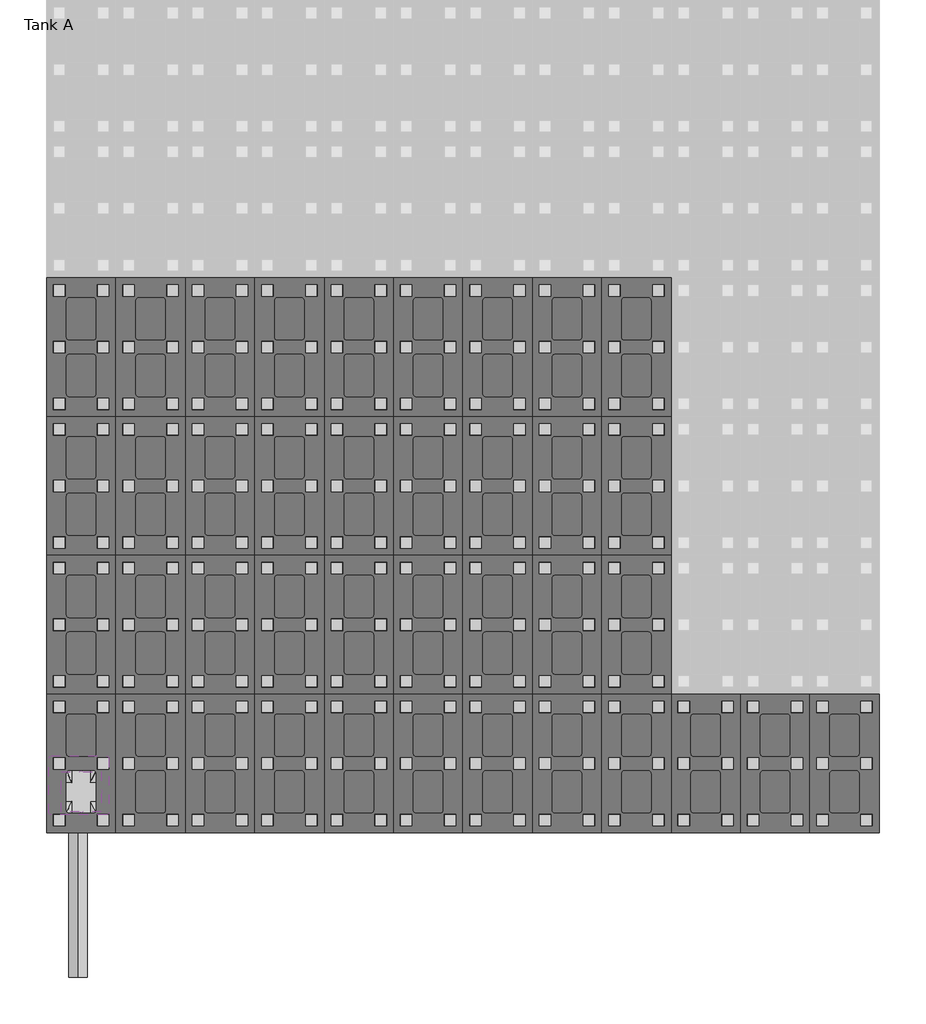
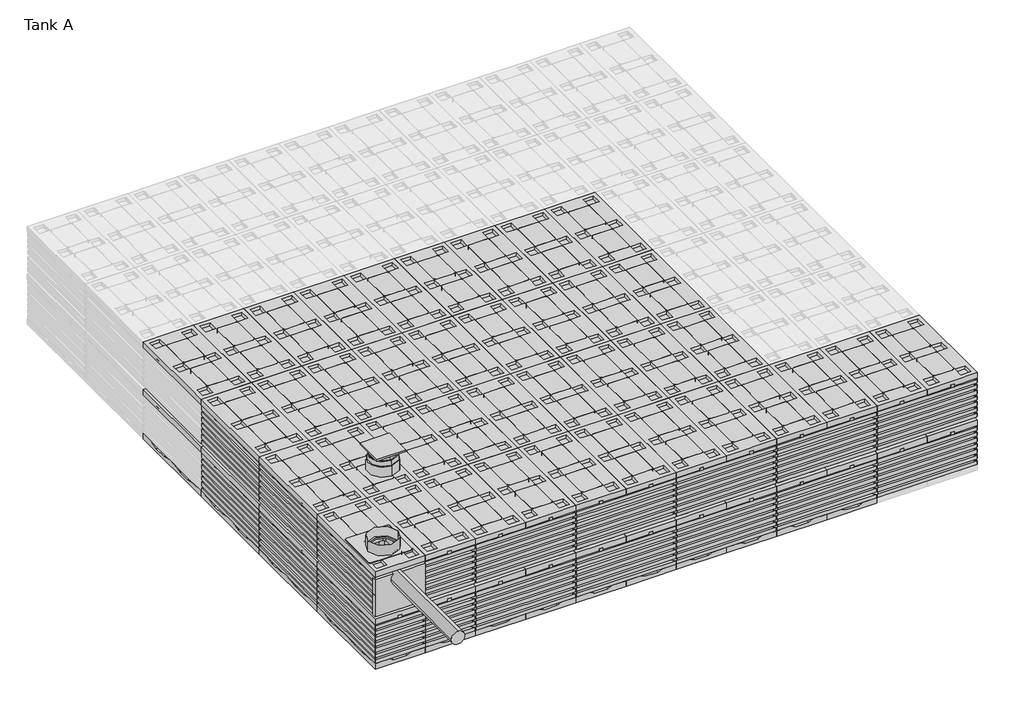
# One storey, part 1 of 6: 138 unitary equipment elements, 1 pipe fitting, 1 pipe segment.
"""IFC4 building model written with IfcOpenShell, lengths in millimetres."""

from ifc_helpers import new_model, si_unit, point, frame, frame_2d, origin, place, context, project, spatial, circle_curve, trimmed, segment, composite_curve, outline, extrude, transform, mapped, element, save
from components import cast_iron_ral9200_6ea693ea, closed_bottom_plate_7d425a97, std_f31acf44, std_d7b6ca00, std_48edb1db, std_0451be0c, std_d7962c01, vertical_tw_6a955b7c

model = new_model("IFC4")

# Units and contexts
model_context = context("Model", 3, world=origin())
ifc_project = project(units=[si_unit("LENGTHUNIT", "METRE", prefix="MILLI")], contexts=[model_context])

# Site, building, storey
site = spatial("IfcSite", under=ifc_project)
building = spatial("IfcBuilding", under=site)
storey = spatial("IfcBuildingStorey", under=building, Name="Tank A", Elevation=-2300.0)

# Pipe fitting
placement = place(None, origin())
cast_iron_ral9200_shape = cast_iron_ral9200_6ea693ea(model_context)
element("IfcPipeFitting", 1, ObjectType="Wavin_PipeFitting_QBicPlusZDoNotUseCover300 : Cast iron, RAL9200", at=placement, inside=storey, context=model_context, shape_type="MappedRepresentation", body=[
    mapped(cast_iron_ral9200_shape, transform((2786.051096, -4084.2220602, 200.0), x_axis=(0.0, 1.0, 0.0), y_axis=(-1.0000000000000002, 0.0, 0.0), z_axis=(0.0, 0.0, 1.0000000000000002))),
])

# Pipe segment
element("IfcPipeSegment", 2, ObjectType="Generic", at=placement, inside=storey, context=model_context, shape_type="SweptSolid", body=[
    extrude(outline(composite_curve([segment(trimmed(circle_curve(frame_2d((-1236.5, 2756.051096)), 80.0), [point((-1236.5, 2676.051096))], [point((-1316.5, 2756.051096))], False, "CARTESIAN"), True, "CONTINUOUS"), segment(trimmed(circle_curve(frame_2d((-1236.5, 2756.051096)), 80.0), [point((-1316.5, 2756.051096))], [point((-1236.5, 2836.051096))], False, "CARTESIAN"), True, "CONTINUOUS"), segment(trimmed(circle_curve(frame_2d((-1236.5, 2756.051096)), 80.0), [point((-1236.5, 2836.051096))], [point((-1156.5, 2756.051096))], False, "CARTESIAN"), True, "CONTINUOUS"), segment(trimmed(circle_curve(frame_2d((-1236.5, 2756.051096)), 80.0), [point((-1156.5, 2756.051096))], [point((-1236.5, 2676.051096))], False, "CARTESIAN"), True, "CONTINUOUS")], self_intersect=False)), frame((0.0, -5689.2220602, 0.0), z_axis=(0.0, 1.0, 0.0), x_axis=(0.0, 0.0, 1.0)), (0.0, 0.0, 1.0), 1300.0),
])

# Unitary equipment
closed_bottom_plate_shape = closed_bottom_plate_7d425a97(model_context)
element("IfcUnitaryEquipment", 3, ObjectType="Wavin_MechanicalEquipment_QBicPlusZDoNotUseBottomPlate : Open bottom plate", at=placement, inside=storey, context=model_context, shape_type="MappedRepresentation", body=[
    mapped(closed_bottom_plate_shape, transform((8486.051096, -4439.2220602, -2230.0), x_axis=(0.0, 1.0, 0.0), y_axis=(-1.0000000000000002, 0.0, 0.0), z_axis=(0.0, 0.0, 1.0000000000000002))),
])
element("IfcUnitaryEquipment", 4, ObjectType="Wavin_MechanicalEquipment_QBicPlusZDoNotUseBottomPlate : Open bottom plate", at=placement, inside=storey, context=model_context, shape_type="MappedRepresentation", body=[
    mapped(closed_bottom_plate_shape, transform((7886.051096, -4439.2220602, -2230.0), x_axis=(0.0, 1.0, 0.0), y_axis=(-1.0000000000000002, 0.0, 0.0), z_axis=(0.0, 0.0, 1.0000000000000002))),
])
element("IfcUnitaryEquipment", 5, ObjectType="Wavin_MechanicalEquipment_QBicPlusZDoNotUseBottomPlate : Open bottom plate", at=placement, inside=storey, context=model_context, shape_type="MappedRepresentation", body=[
    mapped(closed_bottom_plate_shape, transform((7286.051096, -4439.2220602, -2230.0), x_axis=(0.0, 1.0, 0.0), y_axis=(-1.0000000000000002, 0.0, 0.0), z_axis=(0.0, 0.0, 1.0000000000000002))),
])
element("IfcUnitaryEquipment", 6, ObjectType="Wavin_MechanicalEquipment_QBicPlusZDoNotUseBottomPlate : Open bottom plate", at=placement, inside=storey, context=model_context, shape_type="MappedRepresentation", body=[
    mapped(closed_bottom_plate_shape, transform((6686.051096, -4439.2220602, -2230.0), x_axis=(0.0, 1.0, 0.0), y_axis=(-1.0000000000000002, 0.0, 0.0), z_axis=(0.0, 0.0, 1.0000000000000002))),
])
element("IfcUnitaryEquipment", 7, ObjectType="Wavin_MechanicalEquipment_QBicPlusZDoNotUseBottomPlate : Open bottom plate", at=placement, inside=storey, context=model_context, shape_type="MappedRepresentation", body=[
    mapped(closed_bottom_plate_shape, transform((6086.051096, -4439.2220602, -2230.0), x_axis=(0.0, 1.0, 0.0), y_axis=(-1.0000000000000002, 0.0, 0.0), z_axis=(0.0, 0.0, 1.0000000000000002))),
])
element("IfcUnitaryEquipment", 8, ObjectType="Wavin_MechanicalEquipment_QBicPlusZDoNotUseBottomPlate : Open bottom plate", at=placement, inside=storey, context=model_context, shape_type="MappedRepresentation", body=[
    mapped(closed_bottom_plate_shape, transform((5486.051096, -4439.2220602, -2230.0), x_axis=(0.0, 1.0, 0.0), y_axis=(-1.0000000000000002, 0.0, 0.0), z_axis=(0.0, 0.0, 1.0000000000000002))),
])
element("IfcUnitaryEquipment", 9, ObjectType="Wavin_MechanicalEquipment_QBicPlusZDoNotUseBottomPlate : Open bottom plate", at=placement, inside=storey, context=model_context, shape_type="MappedRepresentation", body=[
    mapped(closed_bottom_plate_shape, transform((4886.051096, -4439.2220602, -2230.0), x_axis=(0.0, 1.0, 0.0), y_axis=(-1.0000000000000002, 0.0, 0.0), z_axis=(0.0, 0.0, 1.0000000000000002))),
])
element("IfcUnitaryEquipment", 10, ObjectType="Wavin_MechanicalEquipment_QBicPlusZDoNotUseBottomPlate : Open bottom plate", at=placement, inside=storey, context=model_context, shape_type="MappedRepresentation", body=[
    mapped(closed_bottom_plate_shape, transform((4286.051096, -4439.2220602, -2230.0), x_axis=(0.0, 1.0, 0.0), y_axis=(-1.0000000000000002, 0.0, 0.0), z_axis=(0.0, 0.0, 1.0000000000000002))),
])
element("IfcUnitaryEquipment", 11, ObjectType="Wavin_MechanicalEquipment_QBicPlusZDoNotUseBottomPlate : Open bottom plate", at=placement, inside=storey, context=model_context, shape_type="MappedRepresentation", body=[
    mapped(closed_bottom_plate_shape, transform((3686.051096, -4439.2220602, -2230.0), x_axis=(0.0, 1.0, 0.0), y_axis=(-1.0000000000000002, 0.0, 0.0), z_axis=(0.0, 0.0, 1.0000000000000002))),
])
element("IfcUnitaryEquipment", 12, ObjectType="Wavin_MechanicalEquipment_QBicPlusZDoNotUseBottomPlate : Open bottom plate", at=placement, inside=storey, context=model_context, shape_type="MappedRepresentation", body=[
    mapped(closed_bottom_plate_shape, transform((7886.051096, -3239.2220602, -2230.0), x_axis=(0.0, 1.0, 0.0), y_axis=(-1.0000000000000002, 0.0, 0.0), z_axis=(0.0, 0.0, 1.0000000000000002))),
])
element("IfcUnitaryEquipment", 13, ObjectType="Wavin_MechanicalEquipment_QBicPlusZDoNotUseBottomPlate : Open bottom plate", at=placement, inside=storey, context=model_context, shape_type="MappedRepresentation", body=[
    mapped(closed_bottom_plate_shape, transform((7886.051096, -2039.2220602, -2230.0), x_axis=(0.0, 1.0, 0.0), y_axis=(-1.0000000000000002, 0.0, 0.0), z_axis=(0.0, 0.0, 1.0000000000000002))),
])
element("IfcUnitaryEquipment", 14, ObjectType="Wavin_MechanicalEquipment_QBicPlusZDoNotUseBottomPlate : Open bottom plate", at=placement, inside=storey, context=model_context, shape_type="MappedRepresentation", body=[
    mapped(closed_bottom_plate_shape, transform((7886.051096, -839.2220602, -2230.0), x_axis=(0.0, 1.0, 0.0), y_axis=(-1.0000000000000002, 0.0, 0.0), z_axis=(0.0, 0.0, 1.0000000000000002))),
])
element("IfcUnitaryEquipment", 15, ObjectType="Wavin_MechanicalEquipment_QBicPlusZDoNotUseBottomPlate : Open bottom plate", at=placement, inside=storey, context=model_context, shape_type="MappedRepresentation", body=[
    mapped(closed_bottom_plate_shape, transform((7286.051096, -3239.2220602, -2230.0), x_axis=(0.0, 1.0, 0.0), y_axis=(-1.0000000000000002, 0.0, 0.0), z_axis=(0.0, 0.0, 1.0000000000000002))),
])
element("IfcUnitaryEquipment", 16, ObjectType="Wavin_MechanicalEquipment_QBicPlusZDoNotUseBottomPlate : Open bottom plate", at=placement, inside=storey, context=model_context, shape_type="MappedRepresentation", body=[
    mapped(closed_bottom_plate_shape, transform((7286.051096, -2039.2220602, -2230.0), x_axis=(0.0, 1.0, 0.0), y_axis=(-1.0000000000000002, 0.0, 0.0), z_axis=(0.0, 0.0, 1.0000000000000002))),
])
element("IfcUnitaryEquipment", 17, ObjectType="Wavin_MechanicalEquipment_QBicPlusZDoNotUseBottomPlate : Open bottom plate", at=placement, inside=storey, context=model_context, shape_type="MappedRepresentation", body=[
    mapped(closed_bottom_plate_shape, transform((7286.051096, -839.2220602, -2230.0), x_axis=(0.0, 1.0, 0.0), y_axis=(-1.0000000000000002, 0.0, 0.0), z_axis=(0.0, 0.0, 1.0000000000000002))),
])
element("IfcUnitaryEquipment", 18, ObjectType="Wavin_MechanicalEquipment_QBicPlusZDoNotUseBottomPlate : Open bottom plate", at=placement, inside=storey, context=model_context, shape_type="MappedRepresentation", body=[
    mapped(closed_bottom_plate_shape, transform((6686.051096, -3239.2220602, -2230.0), x_axis=(0.0, 1.0, 0.0), y_axis=(-1.0000000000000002, 0.0, 0.0), z_axis=(0.0, 0.0, 1.0000000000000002))),
])
element("IfcUnitaryEquipment", 19, ObjectType="Wavin_MechanicalEquipment_QBicPlusZDoNotUseBottomPlate : Open bottom plate", at=placement, inside=storey, context=model_context, shape_type="MappedRepresentation", body=[
    mapped(closed_bottom_plate_shape, transform((6686.051096, -2039.2220602, -2230.0), x_axis=(0.0, 1.0, 0.0), y_axis=(-1.0000000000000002, 0.0, 0.0), z_axis=(0.0, 0.0, 1.0000000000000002))),
])
element("IfcUnitaryEquipment", 20, ObjectType="Wavin_MechanicalEquipment_QBicPlusZDoNotUseBottomPlate : Open bottom plate", at=placement, inside=storey, context=model_context, shape_type="MappedRepresentation", body=[
    mapped(closed_bottom_plate_shape, transform((6686.051096, -839.2220602, -2230.0), x_axis=(0.0, 1.0, 0.0), y_axis=(-1.0000000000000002, 0.0, 0.0), z_axis=(0.0, 0.0, 1.0000000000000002))),
])
element("IfcUnitaryEquipment", 21, ObjectType="Wavin_MechanicalEquipment_QBicPlusZDoNotUseBottomPlate : Open bottom plate", at=placement, inside=storey, context=model_context, shape_type="MappedRepresentation", body=[
    mapped(closed_bottom_plate_shape, transform((6086.051096, -3239.2220602, -2230.0), x_axis=(0.0, 1.0, 0.0), y_axis=(-1.0000000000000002, 0.0, 0.0), z_axis=(0.0, 0.0, 1.0000000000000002))),
])
element("IfcUnitaryEquipment", 22, ObjectType="Wavin_MechanicalEquipment_QBicPlusZDoNotUseBottomPlate : Open bottom plate", at=placement, inside=storey, context=model_context, shape_type="MappedRepresentation", body=[
    mapped(closed_bottom_plate_shape, transform((6086.051096, -2039.2220602, -2230.0), x_axis=(0.0, 1.0, 0.0), y_axis=(-1.0000000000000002, 0.0, 0.0), z_axis=(0.0, 0.0, 1.0000000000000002))),
])
element("IfcUnitaryEquipment", 23, ObjectType="Wavin_MechanicalEquipment_QBicPlusZDoNotUseBottomPlate : Open bottom plate", at=placement, inside=storey, context=model_context, shape_type="MappedRepresentation", body=[
    mapped(closed_bottom_plate_shape, transform((6086.051096, -839.2220602, -2230.0), x_axis=(0.0, 1.0, 0.0), y_axis=(-1.0000000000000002, 0.0, 0.0), z_axis=(0.0, 0.0, 1.0000000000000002))),
])
element("IfcUnitaryEquipment", 24, ObjectType="Wavin_MechanicalEquipment_QBicPlusZDoNotUseBottomPlate : Open bottom plate", at=placement, inside=storey, context=model_context, shape_type="MappedRepresentation", body=[
    mapped(closed_bottom_plate_shape, transform((5486.051096, -3239.2220602, -2230.0), x_axis=(0.0, 1.0, 0.0), y_axis=(-1.0000000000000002, 0.0, 0.0), z_axis=(0.0, 0.0, 1.0000000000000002))),
])
element("IfcUnitaryEquipment", 25, ObjectType="Wavin_MechanicalEquipment_QBicPlusZDoNotUseBottomPlate : Open bottom plate", at=placement, inside=storey, context=model_context, shape_type="MappedRepresentation", body=[
    mapped(closed_bottom_plate_shape, transform((5486.051096, -2039.2220602, -2230.0), x_axis=(0.0, 1.0, 0.0), y_axis=(-1.0000000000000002, 0.0, 0.0), z_axis=(0.0, 0.0, 1.0000000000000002))),
])
element("IfcUnitaryEquipment", 26, ObjectType="Wavin_MechanicalEquipment_QBicPlusZDoNotUseBottomPlate : Open bottom plate", at=placement, inside=storey, context=model_context, shape_type="MappedRepresentation", body=[
    mapped(closed_bottom_plate_shape, transform((5486.051096, -839.2220602, -2230.0), x_axis=(0.0, 1.0, 0.0), y_axis=(-1.0000000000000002, 0.0, 0.0), z_axis=(0.0, 0.0, 1.0000000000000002))),
])
element("IfcUnitaryEquipment", 27, ObjectType="Wavin_MechanicalEquipment_QBicPlusZDoNotUseBottomPlate : Open bottom plate", at=placement, inside=storey, context=model_context, shape_type="MappedRepresentation", body=[
    mapped(closed_bottom_plate_shape, transform((4886.051096, -3239.2220602, -2230.0), x_axis=(0.0, 1.0, 0.0), y_axis=(-1.0000000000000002, 0.0, 0.0), z_axis=(0.0, 0.0, 1.0000000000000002))),
])
element("IfcUnitaryEquipment", 28, ObjectType="Wavin_MechanicalEquipment_QBicPlusZDoNotUseBottomPlate : Open bottom plate", at=placement, inside=storey, context=model_context, shape_type="MappedRepresentation", body=[
    mapped(closed_bottom_plate_shape, transform((4886.051096, -2039.2220602, -2230.0), x_axis=(0.0, 1.0, 0.0), y_axis=(-1.0000000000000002, 0.0, 0.0), z_axis=(0.0, 0.0, 1.0000000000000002))),
])
element("IfcUnitaryEquipment", 29, ObjectType="Wavin_MechanicalEquipment_QBicPlusZDoNotUseBottomPlate : Open bottom plate", at=placement, inside=storey, context=model_context, shape_type="MappedRepresentation", body=[
    mapped(closed_bottom_plate_shape, transform((4886.051096, -839.2220602, -2230.0), x_axis=(0.0, 1.0, 0.0), y_axis=(-1.0000000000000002, 0.0, 0.0), z_axis=(0.0, 0.0, 1.0000000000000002))),
])
element("IfcUnitaryEquipment", 30, ObjectType="Wavin_MechanicalEquipment_QBicPlusZDoNotUseBottomPlate : Open bottom plate", at=placement, inside=storey, context=model_context, shape_type="MappedRepresentation", body=[
    mapped(closed_bottom_plate_shape, transform((4286.051096, -3239.2220602, -2230.0), x_axis=(0.0, 1.0, 0.0), y_axis=(-1.0000000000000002, 0.0, 0.0), z_axis=(0.0, 0.0, 1.0000000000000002))),
])
element("IfcUnitaryEquipment", 31, ObjectType="Wavin_MechanicalEquipment_QBicPlusZDoNotUseBottomPlate : Open bottom plate", at=placement, inside=storey, context=model_context, shape_type="MappedRepresentation", body=[
    mapped(closed_bottom_plate_shape, transform((4286.051096, -2039.2220602, -2230.0), x_axis=(0.0, 1.0, 0.0), y_axis=(-1.0000000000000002, 0.0, 0.0), z_axis=(0.0, 0.0, 1.0000000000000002))),
])
element("IfcUnitaryEquipment", 32, ObjectType="Wavin_MechanicalEquipment_QBicPlusZDoNotUseBottomPlate : Open bottom plate", at=placement, inside=storey, context=model_context, shape_type="MappedRepresentation", body=[
    mapped(closed_bottom_plate_shape, transform((4286.051096, -839.2220602, -2230.0), x_axis=(0.0, 1.0, 0.0), y_axis=(-1.0000000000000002, 0.0, 0.0), z_axis=(0.0, 0.0, 1.0000000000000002))),
])
element("IfcUnitaryEquipment", 33, ObjectType="Wavin_MechanicalEquipment_QBicPlusZDoNotUseBottomPlate : Open bottom plate", at=placement, inside=storey, context=model_context, shape_type="MappedRepresentation", body=[
    mapped(closed_bottom_plate_shape, transform((3686.051096, -3239.2220602, -2230.0), x_axis=(0.0, 1.0, 0.0), y_axis=(-1.0000000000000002, 0.0, 0.0), z_axis=(0.0, 0.0, 1.0000000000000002))),
])
element("IfcUnitaryEquipment", 34, ObjectType="Wavin_MechanicalEquipment_QBicPlusZDoNotUseBottomPlate : Open bottom plate", at=placement, inside=storey, context=model_context, shape_type="MappedRepresentation", body=[
    mapped(closed_bottom_plate_shape, transform((3686.051096, -2039.2220602, -2230.0), x_axis=(0.0, 1.0, 0.0), y_axis=(-1.0000000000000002, 0.0, 0.0), z_axis=(0.0, 0.0, 1.0000000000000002))),
])
element("IfcUnitaryEquipment", 35, ObjectType="Wavin_MechanicalEquipment_QBicPlusZDoNotUseBottomPlate : Open bottom plate", at=placement, inside=storey, context=model_context, shape_type="MappedRepresentation", body=[
    mapped(closed_bottom_plate_shape, transform((3686.051096, -839.2220602, -2230.0), x_axis=(0.0, 1.0, 0.0), y_axis=(-1.0000000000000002, 0.0, 0.0), z_axis=(0.0, 0.0, 1.0000000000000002))),
])
element("IfcUnitaryEquipment", 36, ObjectType="Wavin_MechanicalEquipment_QBicPlusZDoNotUseBottomPlate : Open bottom plate", at=placement, inside=storey, context=model_context, shape_type="MappedRepresentation", body=[
    mapped(closed_bottom_plate_shape, transform((3086.051096, -3239.2220602, -2230.0), x_axis=(0.0, 1.0, 0.0), y_axis=(-1.0000000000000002, 0.0, 0.0), z_axis=(0.0, 0.0, 1.0000000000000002))),
])
element("IfcUnitaryEquipment", 37, ObjectType="Wavin_MechanicalEquipment_QBicPlusZDoNotUseBottomPlate : Open bottom plate", at=placement, inside=storey, context=model_context, shape_type="MappedRepresentation", body=[
    mapped(closed_bottom_plate_shape, transform((3086.051096, -2039.2220602, -2230.0), x_axis=(0.0, 1.0, 0.0), y_axis=(-1.0000000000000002, 0.0, 0.0), z_axis=(0.0, 0.0, 1.0000000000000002))),
])
element("IfcUnitaryEquipment", 38, ObjectType="Wavin_MechanicalEquipment_QBicPlusZDoNotUseBottomPlate : Open bottom plate", at=placement, inside=storey, context=model_context, shape_type="MappedRepresentation", body=[
    mapped(closed_bottom_plate_shape, transform((3086.051096, -839.2220602, -2230.0), x_axis=(0.0, 1.0, 0.0), y_axis=(-1.0000000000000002, 0.0, 0.0), z_axis=(0.0, 0.0, 1.0000000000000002))),
])
element("IfcUnitaryEquipment", 39, ObjectType="Wavin_MechanicalEquipment_QBicPlusZDoNotUseBottomPlate : Open bottom plate", at=placement, inside=storey, context=model_context, shape_type="MappedRepresentation", body=[
    mapped(closed_bottom_plate_shape, transform((3086.051096, -4439.2220602, -2230.0), x_axis=(0.0, 1.0, 0.0), y_axis=(-1.0000000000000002, 0.0, 0.0), z_axis=(0.0, 0.0, 1.0000000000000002))),
])
std_shape = std_f31acf44(model_context)
element("IfcUnitaryEquipment", 40, ObjectType="Wavin_MechanicalEquipment_QBicPlusZDoNotUseLateralSidePlate : std", at=placement, inside=storey, context=model_context, shape_type="MappedRepresentation", body=[
    mapped(std_shape, transform((6086.051096, -4439.2220602, -2330.0), x_axis=(1.0, 0.0, 0.0), y_axis=(0.0, 1.0, 0.0), z_axis=(0.0, 0.0, 1.0))),
])
element("IfcUnitaryEquipment", 41, ObjectType="Wavin_MechanicalEquipment_QBicPlusZDoNotUseLateralSidePlate : std", at=placement, inside=storey, context=model_context, shape_type="MappedRepresentation", body=[
    mapped(std_shape, transform((6086.051096, -4439.2220602, -1730.0), x_axis=(1.0, 0.0, 0.0), y_axis=(0.0, 1.0, 0.0), z_axis=(0.0, 0.0, 1.0))),
])
element("IfcUnitaryEquipment", 42, ObjectType="Wavin_MechanicalEquipment_QBicPlusZDoNotUseLateralSidePlate : std", at=placement, inside=storey, context=model_context, shape_type="MappedRepresentation", body=[
    mapped(std_shape, transform((4886.051096, -4439.2220602, -2330.0), x_axis=(1.0, 0.0, 0.0), y_axis=(0.0, 1.0, 0.0), z_axis=(0.0, 0.0, 1.0))),
])
element("IfcUnitaryEquipment", 43, ObjectType="Wavin_MechanicalEquipment_QBicPlusZDoNotUseLateralSidePlate : std", at=placement, inside=storey, context=model_context, shape_type="MappedRepresentation", body=[
    mapped(std_shape, transform((4886.051096, -4439.2220602, -1730.0), x_axis=(1.0, 0.0, 0.0), y_axis=(0.0, 1.0, 0.0), z_axis=(0.0, 0.0, 1.0))),
])
element("IfcUnitaryEquipment", 44, ObjectType="Wavin_MechanicalEquipment_QBicPlusZDoNotUseLateralSidePlate : std", at=placement, inside=storey, context=model_context, shape_type="MappedRepresentation", body=[
    mapped(std_shape, transform((3686.051096, -4439.2220602, -2330.0), x_axis=(1.0, 0.0, 0.0), y_axis=(0.0, 1.0, 0.0), z_axis=(0.0, 0.0, 1.0))),
])
element("IfcUnitaryEquipment", 45, ObjectType="Wavin_MechanicalEquipment_QBicPlusZDoNotUseLateralSidePlate : std", at=placement, inside=storey, context=model_context, shape_type="MappedRepresentation", body=[
    mapped(std_shape, transform((3686.051096, -4439.2220602, -1730.0), x_axis=(1.0, 0.0, 0.0), y_axis=(0.0, 1.0, 0.0), z_axis=(0.0, 0.0, 1.0))),
])
element("IfcUnitaryEquipment", 46, ObjectType="Wavin_MechanicalEquipment_QBicPlusZDoNotUseLateralSidePlate : std", at=placement, inside=storey, context=model_context, shape_type="MappedRepresentation", body=[
    mapped(std_shape, transform((9686.051096, -4439.2220602, -2330.0), x_axis=(0.0, 1.0000000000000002, 0.0), y_axis=(-1.0000000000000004, 0.0, 0.0), z_axis=(0.0, 0.0, 1.0000000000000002))),
])
element("IfcUnitaryEquipment", 47, ObjectType="Wavin_MechanicalEquipment_QBicPlusZDoNotUseLateralSidePlate : std", at=placement, inside=storey, context=model_context, shape_type="MappedRepresentation", body=[
    mapped(std_shape, transform((9686.051096, -4439.2220602, -1730.0), x_axis=(0.0, 1.0000000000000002, 0.0), y_axis=(-1.0000000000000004, 0.0, 0.0), z_axis=(0.0, 0.0, 1.0000000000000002))),
])
element("IfcUnitaryEquipment", 48, ObjectType="Wavin_MechanicalEquipment_QBicPlusZDoNotUseLateralSidePlate : std", at=placement, inside=storey, context=model_context, shape_type="MappedRepresentation", body=[
    mapped(std_shape, transform((2486.051096, -839.2220602, -2330.0), x_axis=(0.0, -1.0000000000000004, 0.0), y_axis=(1.0000000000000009, 0.0, 0.0), z_axis=(0.0, 0.0, 1.0000000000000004))),
])
element("IfcUnitaryEquipment", 49, ObjectType="Wavin_MechanicalEquipment_QBicPlusZDoNotUseLateralSidePlate : std", at=placement, inside=storey, context=model_context, shape_type="MappedRepresentation", body=[
    mapped(std_shape, transform((2486.051096, -839.2220602, -1730.0), x_axis=(0.0, -1.0000000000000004, 0.0), y_axis=(1.0000000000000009, 0.0, 0.0), z_axis=(0.0, 0.0, 1.0000000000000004))),
])
element("IfcUnitaryEquipment", 50, ObjectType="Wavin_MechanicalEquipment_QBicPlusZDoNotUseLateralSidePlate : std", at=placement, inside=storey, context=model_context, shape_type="MappedRepresentation", body=[
    mapped(std_shape, transform((7286.051096, -4439.2220602, -2330.0), x_axis=(1.0, 0.0, 0.0), y_axis=(0.0, 1.0, 0.0), z_axis=(0.0, 0.0, 1.0))),
])
element("IfcUnitaryEquipment", 51, ObjectType="Wavin_MechanicalEquipment_QBicPlusZDoNotUseLateralSidePlate : std", at=placement, inside=storey, context=model_context, shape_type="MappedRepresentation", body=[
    mapped(std_shape, transform((7286.051096, -4439.2220602, -1730.0), x_axis=(1.0, 0.0, 0.0), y_axis=(0.0, 1.0, 0.0), z_axis=(0.0, 0.0, 1.0))),
])
element("IfcUnitaryEquipment", 52, ObjectType="Wavin_MechanicalEquipment_QBicPlusZDoNotUseLateralSidePlate : std", at=placement, inside=storey, context=model_context, shape_type="MappedRepresentation", body=[
    mapped(std_shape, transform((8486.051096, -4439.2220602, -2330.0), x_axis=(1.0, 0.0, 0.0), y_axis=(0.0, 1.0, 0.0), z_axis=(0.0, 0.0, 1.0))),
])
element("IfcUnitaryEquipment", 53, ObjectType="Wavin_MechanicalEquipment_QBicPlusZDoNotUseLateralSidePlate : std", at=placement, inside=storey, context=model_context, shape_type="MappedRepresentation", body=[
    mapped(std_shape, transform((8486.051096, -4439.2220602, -1730.0), x_axis=(1.0, 0.0, 0.0), y_axis=(0.0, 1.0, 0.0), z_axis=(0.0, 0.0, 1.0))),
])
element("IfcUnitaryEquipment", 54, ObjectType="Wavin_MechanicalEquipment_QBicPlusZDoNotUseLateralSidePlate : std", at=placement, inside=storey, context=model_context, shape_type="MappedRepresentation", body=[
    mapped(std_shape, transform((2486.051096, -2039.2220602, -2330.0), x_axis=(0.0, -1.0000000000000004, 0.0), y_axis=(1.0000000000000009, 0.0, 0.0), z_axis=(0.0, 0.0, 1.0000000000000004))),
])
element("IfcUnitaryEquipment", 55, ObjectType="Wavin_MechanicalEquipment_QBicPlusZDoNotUseLateralSidePlate : std", at=placement, inside=storey, context=model_context, shape_type="MappedRepresentation", body=[
    mapped(std_shape, transform((2486.051096, -2039.2220602, -1730.0), x_axis=(0.0, -1.0000000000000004, 0.0), y_axis=(1.0000000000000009, 0.0, 0.0), z_axis=(0.0, 0.0, 1.0000000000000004))),
])
element("IfcUnitaryEquipment", 56, ObjectType="Wavin_MechanicalEquipment_QBicPlusZDoNotUseLateralSidePlate : std", at=placement, inside=storey, context=model_context, shape_type="MappedRepresentation", body=[
    mapped(std_shape, transform((2486.051096, -3239.2220602, -2330.0), x_axis=(0.0, -1.0000000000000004, 0.0), y_axis=(1.0000000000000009, 0.0, 0.0), z_axis=(0.0, 0.0, 1.0000000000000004))),
])
element("IfcUnitaryEquipment", 57, ObjectType="Wavin_MechanicalEquipment_QBicPlusZDoNotUseLateralSidePlate : std", at=placement, inside=storey, context=model_context, shape_type="MappedRepresentation", body=[
    mapped(std_shape, transform((2486.051096, -3239.2220602, -1730.0), x_axis=(0.0, -1.0000000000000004, 0.0), y_axis=(1.0000000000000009, 0.0, 0.0), z_axis=(0.0, 0.0, 1.0000000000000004))),
])
std_2_shape = std_d7b6ca00(model_context)
element("IfcUnitaryEquipment", 58, ObjectType="Wavin_MechanicalEquipment_QBicPlusZDoNotUseConnectionPlate : std", at=placement, inside=storey, context=model_context, shape_type="MappedRepresentation", body=[
    mapped(std_2_shape, transform((2486.051096, -4439.2220602, -1730.0), x_axis=(1.0, 0.0, 0.0), y_axis=(0.0, 1.0, 0.0), z_axis=(0.0, 0.0, 1.0))),
])
std_3_shape = std_48edb1db(model_context)
element("IfcUnitaryEquipment", 59, ObjectType="Wavin_MechanicalEquipment_QBicPlusZDoNotUseInfiltrationUnit : std", at=placement, inside=storey, context=model_context, shape_type="MappedRepresentation", body=[
    mapped(std_3_shape, transform((3086.051096, -4439.2220602, -1670.0), x_axis=(0.0, 1.0, 0.0), y_axis=(-1.0000000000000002, 0.0, 0.0), z_axis=(0.0, 0.0, 1.0000000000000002))),
])
element("IfcUnitaryEquipment", 60, ObjectType="Wavin_MechanicalEquipment_QBicPlusZDoNotUseInfiltrationUnit : std", at=placement, inside=storey, context=model_context, shape_type="MappedRepresentation", body=[
    mapped(std_3_shape, transform((3086.051096, -4439.2220602, -2270.0), x_axis=(0.0, 1.0, 0.0), y_axis=(-1.0000000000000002, 0.0, 0.0), z_axis=(0.0, 0.0, 1.0000000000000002))),
])
std_4_shape = std_0451be0c(model_context)
element("IfcUnitaryEquipment", 61, ObjectType="Wavin_MechanicalEquipment_QBicPlusZDoNotUseLateralSidePlate : std", at=placement, inside=storey, context=model_context, shape_type="MappedRepresentation", body=[
    mapped(std_4_shape, transform((3078.051096, -4439.2220602, -1730.0), x_axis=(1.0, 0.0, 0.0), y_axis=(0.0, 1.0, 0.0), z_axis=(0.0, 0.0, 1.0))),
])
element("IfcUnitaryEquipment", 62, ObjectType="Wavin_MechanicalEquipment_QBicPlusZDoNotUseLateralSidePlate : std", at=placement, inside=storey, context=model_context, shape_type="MappedRepresentation", body=[
    mapped(std_4_shape, transform((3078.051096, -4439.2220602, -2330.0), x_axis=(1.0, 0.0, 0.0), y_axis=(0.0, 1.0, 0.0), z_axis=(0.0, 0.0, 1.0))),
])
element("IfcUnitaryEquipment", 63, ObjectType="Wavin_MechanicalEquipment_QBicPlusZDoNotUseLateralSidePlate : std", at=placement, inside=storey, context=model_context, shape_type="MappedRepresentation", body=[
    mapped(std_4_shape, transform((2486.051096, -4439.2220602, -2330.0), x_axis=(1.0, 0.0, 0.0), y_axis=(0.0, 1.0, 0.0), z_axis=(0.0, 0.0, 1.0))),
])
std_5_shape = std_d7962c01(model_context)
element("IfcUnitaryEquipment", 64, ObjectType="Wavin_MechanicalEquipment_QBicPlusZDoNotUseInfiltrationUnit : std", at=placement, inside=storey, context=model_context, shape_type="MappedRepresentation", body=[
    mapped(std_5_shape, transform((9686.051096, -4439.2220602, -1670.0), x_axis=(0.0, 1.0000000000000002, 0.0), y_axis=(-1.0000000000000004, 0.0, 0.0), z_axis=(0.0, 0.0, 1.0000000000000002))),
])
element("IfcUnitaryEquipment", 65, ObjectType="Wavin_MechanicalEquipment_QBicPlusZDoNotUseInfiltrationUnit : std", at=placement, inside=storey, context=model_context, shape_type="MappedRepresentation", body=[
    mapped(std_5_shape, transform((9686.051096, -4439.2220602, -2270.0), x_axis=(0.0, 1.0000000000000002, 0.0), y_axis=(-1.0000000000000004, 0.0, 0.0), z_axis=(0.0, 0.0, 1.0000000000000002))),
])
element("IfcUnitaryEquipment", 66, ObjectType="Wavin_MechanicalEquipment_QBicPlusZDoNotUseInfiltrationUnit : std", at=placement, inside=storey, context=model_context, shape_type="MappedRepresentation", body=[
    mapped(std_5_shape, transform((9086.051096, -4439.2220602, -1670.0), x_axis=(0.0, 1.0, 0.0), y_axis=(-1.0000000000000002, 0.0, 0.0), z_axis=(0.0, 0.0, 1.0000000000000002))),
])
element("IfcUnitaryEquipment", 67, ObjectType="Wavin_MechanicalEquipment_QBicPlusZDoNotUseInfiltrationUnit : std", at=placement, inside=storey, context=model_context, shape_type="MappedRepresentation", body=[
    mapped(std_5_shape, transform((9086.051096, -4439.2220602, -2270.0), x_axis=(0.0, 1.0, 0.0), y_axis=(-1.0000000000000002, 0.0, 0.0), z_axis=(0.0, 0.0, 1.0000000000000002))),
])
element("IfcUnitaryEquipment", 68, ObjectType="Wavin_MechanicalEquipment_QBicPlusZDoNotUseInfiltrationUnit : std", at=placement, inside=storey, context=model_context, shape_type="MappedRepresentation", body=[
    mapped(std_5_shape, transform((8486.051096, -4439.2220602, -1670.0), x_axis=(0.0, 1.0, 0.0), y_axis=(-1.0000000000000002, 0.0, 0.0), z_axis=(0.0, 0.0, 1.0000000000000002))),
])
element("IfcUnitaryEquipment", 69, ObjectType="Wavin_MechanicalEquipment_QBicPlusZDoNotUseInfiltrationUnit : std", at=placement, inside=storey, context=model_context, shape_type="MappedRepresentation", body=[
    mapped(std_5_shape, transform((8486.051096, -4439.2220602, -2270.0), x_axis=(0.0, 1.0, 0.0), y_axis=(-1.0000000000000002, 0.0, 0.0), z_axis=(0.0, 0.0, 1.0000000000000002))),
])
element("IfcUnitaryEquipment", 70, ObjectType="Wavin_MechanicalEquipment_QBicPlusZDoNotUseInfiltrationUnit : std", at=placement, inside=storey, context=model_context, shape_type="MappedRepresentation", body=[
    mapped(std_5_shape, transform((7886.051096, -4439.2220602, -1670.0), x_axis=(0.0, 1.0, 0.0), y_axis=(-1.0000000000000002, 0.0, 0.0), z_axis=(0.0, 0.0, 1.0000000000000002))),
])
element("IfcUnitaryEquipment", 71, ObjectType="Wavin_MechanicalEquipment_QBicPlusZDoNotUseInfiltrationUnit : std", at=placement, inside=storey, context=model_context, shape_type="MappedRepresentation", body=[
    mapped(std_5_shape, transform((7886.051096, -4439.2220602, -2270.0), x_axis=(0.0, 1.0, 0.0), y_axis=(-1.0000000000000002, 0.0, 0.0), z_axis=(0.0, 0.0, 1.0000000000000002))),
])
element("IfcUnitaryEquipment", 72, ObjectType="Wavin_MechanicalEquipment_QBicPlusZDoNotUseInfiltrationUnit : std", at=placement, inside=storey, context=model_context, shape_type="MappedRepresentation", body=[
    mapped(std_5_shape, transform((7286.051096, -4439.2220602, -1670.0), x_axis=(0.0, 1.0, 0.0), y_axis=(-1.0000000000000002, 0.0, 0.0), z_axis=(0.0, 0.0, 1.0000000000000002))),
])
element("IfcUnitaryEquipment", 73, ObjectType="Wavin_MechanicalEquipment_QBicPlusZDoNotUseInfiltrationUnit : std", at=placement, inside=storey, context=model_context, shape_type="MappedRepresentation", body=[
    mapped(std_5_shape, transform((7286.051096, -4439.2220602, -2270.0), x_axis=(0.0, 1.0, 0.0), y_axis=(-1.0000000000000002, 0.0, 0.0), z_axis=(0.0, 0.0, 1.0000000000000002))),
])
element("IfcUnitaryEquipment", 74, ObjectType="Wavin_MechanicalEquipment_QBicPlusZDoNotUseInfiltrationUnit : std", at=placement, inside=storey, context=model_context, shape_type="MappedRepresentation", body=[
    mapped(std_5_shape, transform((6686.051096, -4439.2220602, -1670.0), x_axis=(0.0, 1.0, 0.0), y_axis=(-1.0000000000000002, 0.0, 0.0), z_axis=(0.0, 0.0, 1.0000000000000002))),
])
element("IfcUnitaryEquipment", 75, ObjectType="Wavin_MechanicalEquipment_QBicPlusZDoNotUseInfiltrationUnit : std", at=placement, inside=storey, context=model_context, shape_type="MappedRepresentation", body=[
    mapped(std_5_shape, transform((6686.051096, -4439.2220602, -2270.0), x_axis=(0.0, 1.0, 0.0), y_axis=(-1.0000000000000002, 0.0, 0.0), z_axis=(0.0, 0.0, 1.0000000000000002))),
])
element("IfcUnitaryEquipment", 76, ObjectType="Wavin_MechanicalEquipment_QBicPlusZDoNotUseInfiltrationUnit : std", at=placement, inside=storey, context=model_context, shape_type="MappedRepresentation", body=[
    mapped(std_5_shape, transform((6086.051096, -4439.2220602, -1670.0), x_axis=(0.0, 1.0, 0.0), y_axis=(-1.0000000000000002, 0.0, 0.0), z_axis=(0.0, 0.0, 1.0000000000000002))),
])
element("IfcUnitaryEquipment", 77, ObjectType="Wavin_MechanicalEquipment_QBicPlusZDoNotUseInfiltrationUnit : std", at=placement, inside=storey, context=model_context, shape_type="MappedRepresentation", body=[
    mapped(std_5_shape, transform((6086.051096, -4439.2220602, -2270.0), x_axis=(0.0, 1.0, 0.0), y_axis=(-1.0000000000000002, 0.0, 0.0), z_axis=(0.0, 0.0, 1.0000000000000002))),
])
element("IfcUnitaryEquipment", 78, ObjectType="Wavin_MechanicalEquipment_QBicPlusZDoNotUseInfiltrationUnit : std", at=placement, inside=storey, context=model_context, shape_type="MappedRepresentation", body=[
    mapped(std_5_shape, transform((5486.051096, -4439.2220602, -1670.0), x_axis=(0.0, 1.0, 0.0), y_axis=(-1.0000000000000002, 0.0, 0.0), z_axis=(0.0, 0.0, 1.0000000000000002))),
])
element("IfcUnitaryEquipment", 79, ObjectType="Wavin_MechanicalEquipment_QBicPlusZDoNotUseInfiltrationUnit : std", at=placement, inside=storey, context=model_context, shape_type="MappedRepresentation", body=[
    mapped(std_5_shape, transform((5486.051096, -4439.2220602, -2270.0), x_axis=(0.0, 1.0, 0.0), y_axis=(-1.0000000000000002, 0.0, 0.0), z_axis=(0.0, 0.0, 1.0000000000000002))),
])
element("IfcUnitaryEquipment", 80, ObjectType="Wavin_MechanicalEquipment_QBicPlusZDoNotUseInfiltrationUnit : std", at=placement, inside=storey, context=model_context, shape_type="MappedRepresentation", body=[
    mapped(std_5_shape, transform((4886.051096, -4439.2220602, -1670.0), x_axis=(0.0, 1.0, 0.0), y_axis=(-1.0000000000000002, 0.0, 0.0), z_axis=(0.0, 0.0, 1.0000000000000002))),
])
element("IfcUnitaryEquipment", 81, ObjectType="Wavin_MechanicalEquipment_QBicPlusZDoNotUseInfiltrationUnit : std", at=placement, inside=storey, context=model_context, shape_type="MappedRepresentation", body=[
    mapped(std_5_shape, transform((4886.051096, -4439.2220602, -2270.0), x_axis=(0.0, 1.0, 0.0), y_axis=(-1.0000000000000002, 0.0, 0.0), z_axis=(0.0, 0.0, 1.0000000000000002))),
])
element("IfcUnitaryEquipment", 82, ObjectType="Wavin_MechanicalEquipment_QBicPlusZDoNotUseInfiltrationUnit : std", at=placement, inside=storey, context=model_context, shape_type="MappedRepresentation", body=[
    mapped(std_5_shape, transform((4286.051096, -4439.2220602, -1670.0), x_axis=(0.0, 1.0, 0.0), y_axis=(-1.0000000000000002, 0.0, 0.0), z_axis=(0.0, 0.0, 1.0000000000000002))),
])
element("IfcUnitaryEquipment", 83, ObjectType="Wavin_MechanicalEquipment_QBicPlusZDoNotUseInfiltrationUnit : std", at=placement, inside=storey, context=model_context, shape_type="MappedRepresentation", body=[
    mapped(std_5_shape, transform((4286.051096, -4439.2220602, -2270.0), x_axis=(0.0, 1.0, 0.0), y_axis=(-1.0000000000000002, 0.0, 0.0), z_axis=(0.0, 0.0, 1.0000000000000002))),
])
element("IfcUnitaryEquipment", 84, ObjectType="Wavin_MechanicalEquipment_QBicPlusZDoNotUseInfiltrationUnit : std", at=placement, inside=storey, context=model_context, shape_type="MappedRepresentation", body=[
    mapped(std_5_shape, transform((3686.051096, -4439.2220602, -1670.0), x_axis=(0.0, 1.0, 0.0), y_axis=(-1.0000000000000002, 0.0, 0.0), z_axis=(0.0, 0.0, 1.0000000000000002))),
])
element("IfcUnitaryEquipment", 85, ObjectType="Wavin_MechanicalEquipment_QBicPlusZDoNotUseInfiltrationUnit : std", at=placement, inside=storey, context=model_context, shape_type="MappedRepresentation", body=[
    mapped(std_5_shape, transform((3686.051096, -4439.2220602, -2270.0), x_axis=(0.0, 1.0, 0.0), y_axis=(-1.0000000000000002, 0.0, 0.0), z_axis=(0.0, 0.0, 1.0000000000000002))),
])
element("IfcUnitaryEquipment", 86, ObjectType="Wavin_MechanicalEquipment_QBicPlusZDoNotUseInfiltrationUnit : std", at=placement, inside=storey, context=model_context, shape_type="MappedRepresentation", body=[
    mapped(std_5_shape, transform((7886.051096, -3239.2220602, -1670.0), x_axis=(0.0, 1.0, 0.0), y_axis=(-1.0000000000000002, 0.0, 0.0), z_axis=(0.0, 0.0, 1.0000000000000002))),
])
element("IfcUnitaryEquipment", 87, ObjectType="Wavin_MechanicalEquipment_QBicPlusZDoNotUseInfiltrationUnit : std", at=placement, inside=storey, context=model_context, shape_type="MappedRepresentation", body=[
    mapped(std_5_shape, transform((7886.051096, -3239.2220602, -2270.0), x_axis=(0.0, 1.0, 0.0), y_axis=(-1.0000000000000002, 0.0, 0.0), z_axis=(0.0, 0.0, 1.0000000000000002))),
])
element("IfcUnitaryEquipment", 88, ObjectType="Wavin_MechanicalEquipment_QBicPlusZDoNotUseInfiltrationUnit : std", at=placement, inside=storey, context=model_context, shape_type="MappedRepresentation", body=[
    mapped(std_5_shape, transform((7886.051096, -2039.2220602, -1670.0), x_axis=(0.0, 1.0, 0.0), y_axis=(-1.0000000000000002, 0.0, 0.0), z_axis=(0.0, 0.0, 1.0000000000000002))),
])
element("IfcUnitaryEquipment", 89, ObjectType="Wavin_MechanicalEquipment_QBicPlusZDoNotUseInfiltrationUnit : std", at=placement, inside=storey, context=model_context, shape_type="MappedRepresentation", body=[
    mapped(std_5_shape, transform((7886.051096, -2039.2220602, -2270.0), x_axis=(0.0, 1.0, 0.0), y_axis=(-1.0000000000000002, 0.0, 0.0), z_axis=(0.0, 0.0, 1.0000000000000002))),
])
element("IfcUnitaryEquipment", 90, ObjectType="Wavin_MechanicalEquipment_QBicPlusZDoNotUseInfiltrationUnit : std", at=placement, inside=storey, context=model_context, shape_type="MappedRepresentation", body=[
    mapped(std_5_shape, transform((7886.051096, -839.2220602, -1670.0), x_axis=(0.0, 1.0, 0.0), y_axis=(-1.0000000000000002, 0.0, 0.0), z_axis=(0.0, 0.0, 1.0000000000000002))),
])
element("IfcUnitaryEquipment", 91, ObjectType="Wavin_MechanicalEquipment_QBicPlusZDoNotUseInfiltrationUnit : std", at=placement, inside=storey, context=model_context, shape_type="MappedRepresentation", body=[
    mapped(std_5_shape, transform((7886.051096, -839.2220602, -2270.0), x_axis=(0.0, 1.0, 0.0), y_axis=(-1.0000000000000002, 0.0, 0.0), z_axis=(0.0, 0.0, 1.0000000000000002))),
])
element("IfcUnitaryEquipment", 92, ObjectType="Wavin_MechanicalEquipment_QBicPlusZDoNotUseInfiltrationUnit : std", at=placement, inside=storey, context=model_context, shape_type="MappedRepresentation", body=[
    mapped(std_5_shape, transform((7286.051096, -3239.2220602, -1670.0), x_axis=(0.0, 1.0, 0.0), y_axis=(-1.0000000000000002, 0.0, 0.0), z_axis=(0.0, 0.0, 1.0000000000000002))),
])
element("IfcUnitaryEquipment", 93, ObjectType="Wavin_MechanicalEquipment_QBicPlusZDoNotUseInfiltrationUnit : std", at=placement, inside=storey, context=model_context, shape_type="MappedRepresentation", body=[
    mapped(std_5_shape, transform((7286.051096, -3239.2220602, -2270.0), x_axis=(0.0, 1.0, 0.0), y_axis=(-1.0000000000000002, 0.0, 0.0), z_axis=(0.0, 0.0, 1.0000000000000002))),
])
element("IfcUnitaryEquipment", 94, ObjectType="Wavin_MechanicalEquipment_QBicPlusZDoNotUseInfiltrationUnit : std", at=placement, inside=storey, context=model_context, shape_type="MappedRepresentation", body=[
    mapped(std_5_shape, transform((7286.051096, -2039.2220602, -1670.0), x_axis=(0.0, 1.0, 0.0), y_axis=(-1.0000000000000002, 0.0, 0.0), z_axis=(0.0, 0.0, 1.0000000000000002))),
])
element("IfcUnitaryEquipment", 95, ObjectType="Wavin_MechanicalEquipment_QBicPlusZDoNotUseInfiltrationUnit : std", at=placement, inside=storey, context=model_context, shape_type="MappedRepresentation", body=[
    mapped(std_5_shape, transform((7286.051096, -2039.2220602, -2270.0), x_axis=(0.0, 1.0, 0.0), y_axis=(-1.0000000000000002, 0.0, 0.0), z_axis=(0.0, 0.0, 1.0000000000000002))),
])
element("IfcUnitaryEquipment", 96, ObjectType="Wavin_MechanicalEquipment_QBicPlusZDoNotUseInfiltrationUnit : std", at=placement, inside=storey, context=model_context, shape_type="MappedRepresentation", body=[
    mapped(std_5_shape, transform((7286.051096, -839.2220602, -1670.0), x_axis=(0.0, 1.0, 0.0), y_axis=(-1.0000000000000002, 0.0, 0.0), z_axis=(0.0, 0.0, 1.0000000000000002))),
])
element("IfcUnitaryEquipment", 97, ObjectType="Wavin_MechanicalEquipment_QBicPlusZDoNotUseInfiltrationUnit : std", at=placement, inside=storey, context=model_context, shape_type="MappedRepresentation", body=[
    mapped(std_5_shape, transform((7286.051096, -839.2220602, -2270.0), x_axis=(0.0, 1.0, 0.0), y_axis=(-1.0000000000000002, 0.0, 0.0), z_axis=(0.0, 0.0, 1.0000000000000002))),
])
element("IfcUnitaryEquipment", 98, ObjectType="Wavin_MechanicalEquipment_QBicPlusZDoNotUseInfiltrationUnit : std", at=placement, inside=storey, context=model_context, shape_type="MappedRepresentation", body=[
    mapped(std_5_shape, transform((6686.051096, -3239.2220602, -1670.0), x_axis=(0.0, 1.0, 0.0), y_axis=(-1.0000000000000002, 0.0, 0.0), z_axis=(0.0, 0.0, 1.0000000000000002))),
])
element("IfcUnitaryEquipment", 99, ObjectType="Wavin_MechanicalEquipment_QBicPlusZDoNotUseInfiltrationUnit : std", at=placement, inside=storey, context=model_context, shape_type="MappedRepresentation", body=[
    mapped(std_5_shape, transform((6686.051096, -3239.2220602, -2270.0), x_axis=(0.0, 1.0, 0.0), y_axis=(-1.0000000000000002, 0.0, 0.0), z_axis=(0.0, 0.0, 1.0000000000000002))),
])
element("IfcUnitaryEquipment", 100, ObjectType="Wavin_MechanicalEquipment_QBicPlusZDoNotUseInfiltrationUnit : std", at=placement, inside=storey, context=model_context, shape_type="MappedRepresentation", body=[
    mapped(std_5_shape, transform((6686.051096, -2039.2220602, -1670.0), x_axis=(0.0, 1.0, 0.0), y_axis=(-1.0000000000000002, 0.0, 0.0), z_axis=(0.0, 0.0, 1.0000000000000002))),
])
element("IfcUnitaryEquipment", 101, ObjectType="Wavin_MechanicalEquipment_QBicPlusZDoNotUseInfiltrationUnit : std", at=placement, inside=storey, context=model_context, shape_type="MappedRepresentation", body=[
    mapped(std_5_shape, transform((6686.051096, -2039.2220602, -2270.0), x_axis=(0.0, 1.0, 0.0), y_axis=(-1.0000000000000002, 0.0, 0.0), z_axis=(0.0, 0.0, 1.0000000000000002))),
])
element("IfcUnitaryEquipment", 102, ObjectType="Wavin_MechanicalEquipment_QBicPlusZDoNotUseInfiltrationUnit : std", at=placement, inside=storey, context=model_context, shape_type="MappedRepresentation", body=[
    mapped(std_5_shape, transform((6686.051096, -839.2220602, -1670.0), x_axis=(0.0, 1.0, 0.0), y_axis=(-1.0000000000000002, 0.0, 0.0), z_axis=(0.0, 0.0, 1.0000000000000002))),
])
element("IfcUnitaryEquipment", 103, ObjectType="Wavin_MechanicalEquipment_QBicPlusZDoNotUseInfiltrationUnit : std", at=placement, inside=storey, context=model_context, shape_type="MappedRepresentation", body=[
    mapped(std_5_shape, transform((6686.051096, -839.2220602, -2270.0), x_axis=(0.0, 1.0, 0.0), y_axis=(-1.0000000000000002, 0.0, 0.0), z_axis=(0.0, 0.0, 1.0000000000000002))),
])
element("IfcUnitaryEquipment", 104, ObjectType="Wavin_MechanicalEquipment_QBicPlusZDoNotUseInfiltrationUnit : std", at=placement, inside=storey, context=model_context, shape_type="MappedRepresentation", body=[
    mapped(std_5_shape, transform((6086.051096, -3239.2220602, -1670.0), x_axis=(0.0, 1.0, 0.0), y_axis=(-1.0000000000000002, 0.0, 0.0), z_axis=(0.0, 0.0, 1.0000000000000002))),
])
element("IfcUnitaryEquipment", 105, ObjectType="Wavin_MechanicalEquipment_QBicPlusZDoNotUseInfiltrationUnit : std", at=placement, inside=storey, context=model_context, shape_type="MappedRepresentation", body=[
    mapped(std_5_shape, transform((6086.051096, -3239.2220602, -2270.0), x_axis=(0.0, 1.0, 0.0), y_axis=(-1.0000000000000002, 0.0, 0.0), z_axis=(0.0, 0.0, 1.0000000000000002))),
])
element("IfcUnitaryEquipment", 106, ObjectType="Wavin_MechanicalEquipment_QBicPlusZDoNotUseInfiltrationUnit : std", at=placement, inside=storey, context=model_context, shape_type="MappedRepresentation", body=[
    mapped(std_5_shape, transform((6086.051096, -2039.2220602, -1670.0), x_axis=(0.0, 1.0, 0.0), y_axis=(-1.0000000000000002, 0.0, 0.0), z_axis=(0.0, 0.0, 1.0000000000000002))),
])
element("IfcUnitaryEquipment", 107, ObjectType="Wavin_MechanicalEquipment_QBicPlusZDoNotUseInfiltrationUnit : std", at=placement, inside=storey, context=model_context, shape_type="MappedRepresentation", body=[
    mapped(std_5_shape, transform((6086.051096, -2039.2220602, -2270.0), x_axis=(0.0, 1.0, 0.0), y_axis=(-1.0000000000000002, 0.0, 0.0), z_axis=(0.0, 0.0, 1.0000000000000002))),
])
element("IfcUnitaryEquipment", 108, ObjectType="Wavin_MechanicalEquipment_QBicPlusZDoNotUseInfiltrationUnit : std", at=placement, inside=storey, context=model_context, shape_type="MappedRepresentation", body=[
    mapped(std_5_shape, transform((6086.051096, -839.2220602, -1670.0), x_axis=(0.0, 1.0, 0.0), y_axis=(-1.0000000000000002, 0.0, 0.0), z_axis=(0.0, 0.0, 1.0000000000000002))),
])
element("IfcUnitaryEquipment", 109, ObjectType="Wavin_MechanicalEquipment_QBicPlusZDoNotUseInfiltrationUnit : std", at=placement, inside=storey, context=model_context, shape_type="MappedRepresentation", body=[
    mapped(std_5_shape, transform((6086.051096, -839.2220602, -2270.0), x_axis=(0.0, 1.0, 0.0), y_axis=(-1.0000000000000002, 0.0, 0.0), z_axis=(0.0, 0.0, 1.0000000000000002))),
])
element("IfcUnitaryEquipment", 110, ObjectType="Wavin_MechanicalEquipment_QBicPlusZDoNotUseInfiltrationUnit : std", at=placement, inside=storey, context=model_context, shape_type="MappedRepresentation", body=[
    mapped(std_5_shape, transform((5486.051096, -3239.2220602, -1670.0), x_axis=(0.0, 1.0, 0.0), y_axis=(-1.0000000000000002, 0.0, 0.0), z_axis=(0.0, 0.0, 1.0000000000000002))),
])
element("IfcUnitaryEquipment", 111, ObjectType="Wavin_MechanicalEquipment_QBicPlusZDoNotUseInfiltrationUnit : std", at=placement, inside=storey, context=model_context, shape_type="MappedRepresentation", body=[
    mapped(std_5_shape, transform((5486.051096, -3239.2220602, -2270.0), x_axis=(0.0, 1.0, 0.0), y_axis=(-1.0000000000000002, 0.0, 0.0), z_axis=(0.0, 0.0, 1.0000000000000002))),
])
element("IfcUnitaryEquipment", 112, ObjectType="Wavin_MechanicalEquipment_QBicPlusZDoNotUseInfiltrationUnit : std", at=placement, inside=storey, context=model_context, shape_type="MappedRepresentation", body=[
    mapped(std_5_shape, transform((5486.051096, -2039.2220602, -1670.0), x_axis=(0.0, 1.0, 0.0), y_axis=(-1.0000000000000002, 0.0, 0.0), z_axis=(0.0, 0.0, 1.0000000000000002))),
])
element("IfcUnitaryEquipment", 113, ObjectType="Wavin_MechanicalEquipment_QBicPlusZDoNotUseInfiltrationUnit : std", at=placement, inside=storey, context=model_context, shape_type="MappedRepresentation", body=[
    mapped(std_5_shape, transform((5486.051096, -2039.2220602, -2270.0), x_axis=(0.0, 1.0, 0.0), y_axis=(-1.0000000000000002, 0.0, 0.0), z_axis=(0.0, 0.0, 1.0000000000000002))),
])
element("IfcUnitaryEquipment", 114, ObjectType="Wavin_MechanicalEquipment_QBicPlusZDoNotUseInfiltrationUnit : std", at=placement, inside=storey, context=model_context, shape_type="MappedRepresentation", body=[
    mapped(std_5_shape, transform((5486.051096, -839.2220602, -1670.0), x_axis=(0.0, 1.0, 0.0), y_axis=(-1.0000000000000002, 0.0, 0.0), z_axis=(0.0, 0.0, 1.0000000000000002))),
])
element("IfcUnitaryEquipment", 115, ObjectType="Wavin_MechanicalEquipment_QBicPlusZDoNotUseInfiltrationUnit : std", at=placement, inside=storey, context=model_context, shape_type="MappedRepresentation", body=[
    mapped(std_5_shape, transform((5486.051096, -839.2220602, -2270.0), x_axis=(0.0, 1.0, 0.0), y_axis=(-1.0000000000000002, 0.0, 0.0), z_axis=(0.0, 0.0, 1.0000000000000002))),
])
element("IfcUnitaryEquipment", 116, ObjectType="Wavin_MechanicalEquipment_QBicPlusZDoNotUseInfiltrationUnit : std", at=placement, inside=storey, context=model_context, shape_type="MappedRepresentation", body=[
    mapped(std_5_shape, transform((4886.051096, -3239.2220602, -1670.0), x_axis=(0.0, 1.0, 0.0), y_axis=(-1.0000000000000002, 0.0, 0.0), z_axis=(0.0, 0.0, 1.0000000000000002))),
])
element("IfcUnitaryEquipment", 117, ObjectType="Wavin_MechanicalEquipment_QBicPlusZDoNotUseInfiltrationUnit : std", at=placement, inside=storey, context=model_context, shape_type="MappedRepresentation", body=[
    mapped(std_5_shape, transform((4886.051096, -3239.2220602, -2270.0), x_axis=(0.0, 1.0, 0.0), y_axis=(-1.0000000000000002, 0.0, 0.0), z_axis=(0.0, 0.0, 1.0000000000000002))),
])
element("IfcUnitaryEquipment", 118, ObjectType="Wavin_MechanicalEquipment_QBicPlusZDoNotUseInfiltrationUnit : std", at=placement, inside=storey, context=model_context, shape_type="MappedRepresentation", body=[
    mapped(std_5_shape, transform((4886.051096, -2039.2220602, -1670.0), x_axis=(0.0, 1.0, 0.0), y_axis=(-1.0000000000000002, 0.0, 0.0), z_axis=(0.0, 0.0, 1.0000000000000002))),
])
element("IfcUnitaryEquipment", 119, ObjectType="Wavin_MechanicalEquipment_QBicPlusZDoNotUseInfiltrationUnit : std", at=placement, inside=storey, context=model_context, shape_type="MappedRepresentation", body=[
    mapped(std_5_shape, transform((4886.051096, -2039.2220602, -2270.0), x_axis=(0.0, 1.0, 0.0), y_axis=(-1.0000000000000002, 0.0, 0.0), z_axis=(0.0, 0.0, 1.0000000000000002))),
])
element("IfcUnitaryEquipment", 120, ObjectType="Wavin_MechanicalEquipment_QBicPlusZDoNotUseInfiltrationUnit : std", at=placement, inside=storey, context=model_context, shape_type="MappedRepresentation", body=[
    mapped(std_5_shape, transform((4886.051096, -839.2220602, -1670.0), x_axis=(0.0, 1.0, 0.0), y_axis=(-1.0000000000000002, 0.0, 0.0), z_axis=(0.0, 0.0, 1.0000000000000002))),
])
element("IfcUnitaryEquipment", 121, ObjectType="Wavin_MechanicalEquipment_QBicPlusZDoNotUseInfiltrationUnit : std", at=placement, inside=storey, context=model_context, shape_type="MappedRepresentation", body=[
    mapped(std_5_shape, transform((4886.051096, -839.2220602, -2270.0), x_axis=(0.0, 1.0, 0.0), y_axis=(-1.0000000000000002, 0.0, 0.0), z_axis=(0.0, 0.0, 1.0000000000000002))),
])
element("IfcUnitaryEquipment", 122, ObjectType="Wavin_MechanicalEquipment_QBicPlusZDoNotUseInfiltrationUnit : std", at=placement, inside=storey, context=model_context, shape_type="MappedRepresentation", body=[
    mapped(std_5_shape, transform((4286.051096, -3239.2220602, -1670.0), x_axis=(0.0, 1.0, 0.0), y_axis=(-1.0000000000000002, 0.0, 0.0), z_axis=(0.0, 0.0, 1.0000000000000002))),
])
element("IfcUnitaryEquipment", 123, ObjectType="Wavin_MechanicalEquipment_QBicPlusZDoNotUseInfiltrationUnit : std", at=placement, inside=storey, context=model_context, shape_type="MappedRepresentation", body=[
    mapped(std_5_shape, transform((4286.051096, -3239.2220602, -2270.0), x_axis=(0.0, 1.0, 0.0), y_axis=(-1.0000000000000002, 0.0, 0.0), z_axis=(0.0, 0.0, 1.0000000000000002))),
])
element("IfcUnitaryEquipment", 124, ObjectType="Wavin_MechanicalEquipment_QBicPlusZDoNotUseInfiltrationUnit : std", at=placement, inside=storey, context=model_context, shape_type="MappedRepresentation", body=[
    mapped(std_5_shape, transform((4286.051096, -2039.2220602, -1670.0), x_axis=(0.0, 1.0, 0.0), y_axis=(-1.0000000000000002, 0.0, 0.0), z_axis=(0.0, 0.0, 1.0000000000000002))),
])
element("IfcUnitaryEquipment", 125, ObjectType="Wavin_MechanicalEquipment_QBicPlusZDoNotUseInfiltrationUnit : std", at=placement, inside=storey, context=model_context, shape_type="MappedRepresentation", body=[
    mapped(std_5_shape, transform((4286.051096, -2039.2220602, -2270.0), x_axis=(0.0, 1.0, 0.0), y_axis=(-1.0000000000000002, 0.0, 0.0), z_axis=(0.0, 0.0, 1.0000000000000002))),
])
element("IfcUnitaryEquipment", 126, ObjectType="Wavin_MechanicalEquipment_QBicPlusZDoNotUseInfiltrationUnit : std", at=placement, inside=storey, context=model_context, shape_type="MappedRepresentation", body=[
    mapped(std_5_shape, transform((4286.051096, -839.2220602, -1670.0), x_axis=(0.0, 1.0, 0.0), y_axis=(-1.0000000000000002, 0.0, 0.0), z_axis=(0.0, 0.0, 1.0000000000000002))),
])
element("IfcUnitaryEquipment", 127, ObjectType="Wavin_MechanicalEquipment_QBicPlusZDoNotUseInfiltrationUnit : std", at=placement, inside=storey, context=model_context, shape_type="MappedRepresentation", body=[
    mapped(std_5_shape, transform((4286.051096, -839.2220602, -2270.0), x_axis=(0.0, 1.0, 0.0), y_axis=(-1.0000000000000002, 0.0, 0.0), z_axis=(0.0, 0.0, 1.0000000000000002))),
])
element("IfcUnitaryEquipment", 128, ObjectType="Wavin_MechanicalEquipment_QBicPlusZDoNotUseInfiltrationUnit : std", at=placement, inside=storey, context=model_context, shape_type="MappedRepresentation", body=[
    mapped(std_5_shape, transform((3686.051096, -3239.2220602, -1670.0), x_axis=(0.0, 1.0, 0.0), y_axis=(-1.0000000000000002, 0.0, 0.0), z_axis=(0.0, 0.0, 1.0000000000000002))),
])
element("IfcUnitaryEquipment", 129, ObjectType="Wavin_MechanicalEquipment_QBicPlusZDoNotUseInfiltrationUnit : std", at=placement, inside=storey, context=model_context, shape_type="MappedRepresentation", body=[
    mapped(std_5_shape, transform((3686.051096, -3239.2220602, -2270.0), x_axis=(0.0, 1.0, 0.0), y_axis=(-1.0000000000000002, 0.0, 0.0), z_axis=(0.0, 0.0, 1.0000000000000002))),
])
element("IfcUnitaryEquipment", 130, ObjectType="Wavin_MechanicalEquipment_QBicPlusZDoNotUseInfiltrationUnit : std", at=placement, inside=storey, context=model_context, shape_type="MappedRepresentation", body=[
    mapped(std_5_shape, transform((3686.051096, -2039.2220602, -1670.0), x_axis=(0.0, 1.0, 0.0), y_axis=(-1.0000000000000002, 0.0, 0.0), z_axis=(0.0, 0.0, 1.0000000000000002))),
])
element("IfcUnitaryEquipment", 131, ObjectType="Wavin_MechanicalEquipment_QBicPlusZDoNotUseInfiltrationUnit : std", at=placement, inside=storey, context=model_context, shape_type="MappedRepresentation", body=[
    mapped(std_5_shape, transform((3686.051096, -2039.2220602, -2270.0), x_axis=(0.0, 1.0, 0.0), y_axis=(-1.0000000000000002, 0.0, 0.0), z_axis=(0.0, 0.0, 1.0000000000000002))),
])
element("IfcUnitaryEquipment", 132, ObjectType="Wavin_MechanicalEquipment_QBicPlusZDoNotUseInfiltrationUnit : std", at=placement, inside=storey, context=model_context, shape_type="MappedRepresentation", body=[
    mapped(std_5_shape, transform((3686.051096, -839.2220602, -1670.0), x_axis=(0.0, 1.0, 0.0), y_axis=(-1.0000000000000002, 0.0, 0.0), z_axis=(0.0, 0.0, 1.0000000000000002))),
])
element("IfcUnitaryEquipment", 133, ObjectType="Wavin_MechanicalEquipment_QBicPlusZDoNotUseInfiltrationUnit : std", at=placement, inside=storey, context=model_context, shape_type="MappedRepresentation", body=[
    mapped(std_5_shape, transform((3686.051096, -839.2220602, -2270.0), x_axis=(0.0, 1.0, 0.0), y_axis=(-1.0000000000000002, 0.0, 0.0), z_axis=(0.0, 0.0, 1.0000000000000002))),
])
element("IfcUnitaryEquipment", 134, ObjectType="Wavin_MechanicalEquipment_QBicPlusZDoNotUseInfiltrationUnit : std", at=placement, inside=storey, context=model_context, shape_type="MappedRepresentation", body=[
    mapped(std_5_shape, transform((3086.051096, -3239.2220602, -1670.0), x_axis=(0.0, 1.0, 0.0), y_axis=(-1.0000000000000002, 0.0, 0.0), z_axis=(0.0, 0.0, 1.0000000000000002))),
])
element("IfcUnitaryEquipment", 135, ObjectType="Wavin_MechanicalEquipment_QBicPlusZDoNotUseInfiltrationUnit : std", at=placement, inside=storey, context=model_context, shape_type="MappedRepresentation", body=[
    mapped(std_5_shape, transform((3086.051096, -3239.2220602, -2270.0), x_axis=(0.0, 1.0, 0.0), y_axis=(-1.0000000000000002, 0.0, 0.0), z_axis=(0.0, 0.0, 1.0000000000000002))),
])
element("IfcUnitaryEquipment", 136, ObjectType="Wavin_MechanicalEquipment_QBicPlusZDoNotUseInfiltrationUnit : std", at=placement, inside=storey, context=model_context, shape_type="MappedRepresentation", body=[
    mapped(std_5_shape, transform((3086.051096, -2039.2220602, -1670.0), x_axis=(0.0, 1.0, 0.0), y_axis=(-1.0000000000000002, 0.0, 0.0), z_axis=(0.0, 0.0, 1.0000000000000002))),
])
element("IfcUnitaryEquipment", 137, ObjectType="Wavin_MechanicalEquipment_QBicPlusZDoNotUseInfiltrationUnit : std", at=placement, inside=storey, context=model_context, shape_type="MappedRepresentation", body=[
    mapped(std_5_shape, transform((3086.051096, -2039.2220602, -2270.0), x_axis=(0.0, 1.0, 0.0), y_axis=(-1.0000000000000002, 0.0, 0.0), z_axis=(0.0, 0.0, 1.0000000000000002))),
])
element("IfcUnitaryEquipment", 138, ObjectType="Wavin_MechanicalEquipment_QBicPlusZDoNotUseInfiltrationUnit : std", at=placement, inside=storey, context=model_context, shape_type="MappedRepresentation", body=[
    mapped(std_5_shape, transform((3086.051096, -839.2220602, -1670.0), x_axis=(0.0, 1.0, 0.0), y_axis=(-1.0000000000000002, 0.0, 0.0), z_axis=(0.0, 0.0, 1.0000000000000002))),
])
element("IfcUnitaryEquipment", 139, ObjectType="Wavin_MechanicalEquipment_QBicPlusZDoNotUseInfiltrationUnit : std", at=placement, inside=storey, context=model_context, shape_type="MappedRepresentation", body=[
    mapped(std_5_shape, transform((3086.051096, -839.2220602, -2270.0), x_axis=(0.0, 1.0, 0.0), y_axis=(-1.0000000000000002, 0.0, 0.0), z_axis=(0.0, 0.0, 1.0000000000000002))),
])
vertical_tw_shape = vertical_tw_6a955b7c(model_context)
element("IfcUnitaryEquipment", 140, ObjectType="Wavin_MechanicalEquipment_QBicPlusZDoNotUsePipeAdaptor : vertical TW", at=placement, inside=storey, context=model_context, shape_type="MappedRepresentation", body=[
    mapped(vertical_tw_shape, transform((2786.051096, -4084.2220602, -1070.0), x_axis=(-1.0000000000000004, 0.0, 0.0), y_axis=(0.0, -1.0000000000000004, 0.0), z_axis=(0.0, 0.0, 1.0000000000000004))),
])

save(model, "model.ifc")
